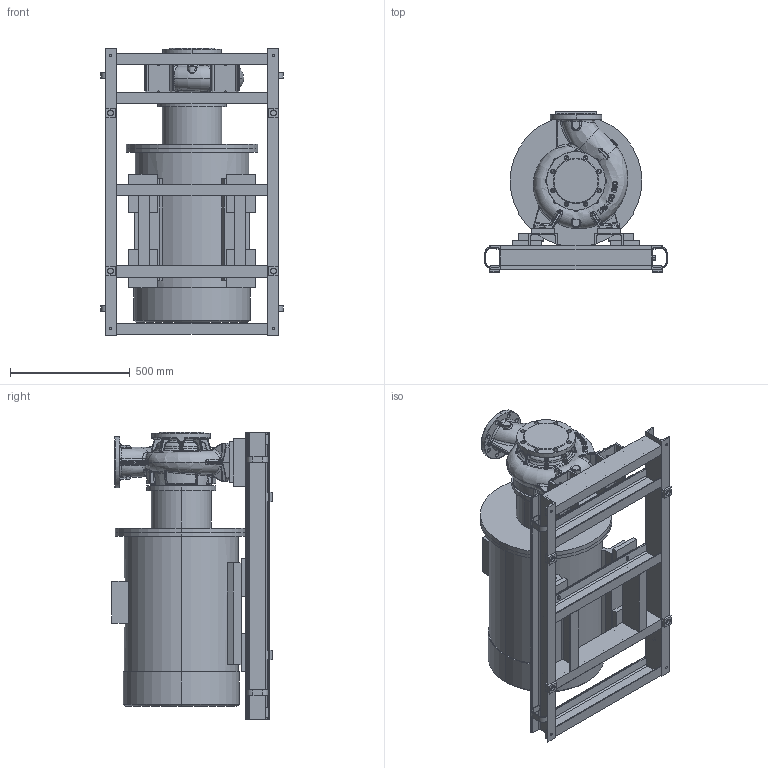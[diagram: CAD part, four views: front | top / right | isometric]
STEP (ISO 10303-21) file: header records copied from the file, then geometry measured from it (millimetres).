
FILE_DESCRIPTION (( 'STEP AP203' ), '1' );
FILE_NAME ('KRM125-100-200-2-55.STEP', '2026-09-22T11:51:53', ( '' ), ( '' ), 'SwSTEP 2.0', 'SolidWorks 2016', '' );
FILE_SCHEMA (( 'CONFIG_CONTROL_DESIGN' ));
Length unit declared in the file: millimetre
Products named in the file (1): KRM125-100-200-2-55
Bounding box: 761.08 x 670 x 1200 mm (x, y, z)
Volume: 178201249.5 mm3; surface area: 6190500.3 mm2
Topology: 49 solids, 49 shells, 1805 faces, 4372 edges, 2653 vertices
Faces by surface type: bspline 630, plane 502, cylinder 403, torus 115, cone 106, sphere 49
Entity records: 107872 total; most frequent: CARTESIAN_POINT 70281, ORIENTED_EDGE 8682, DIRECTION 6631, EDGE_CURVE 4341, VERTEX_POINT 2651, AXIS2_PLACEMENT_3D 2577, EDGE_LOOP 1944, FACE_OUTER_BOUND 1805
